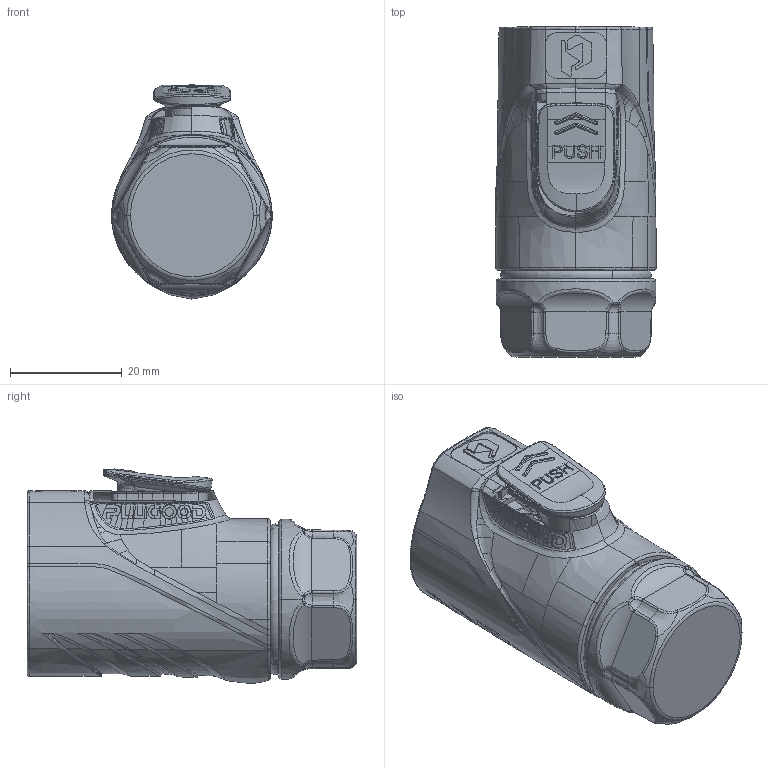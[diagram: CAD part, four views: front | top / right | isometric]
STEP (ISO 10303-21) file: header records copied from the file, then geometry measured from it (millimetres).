
FILE_DESCRIPTION (( 'STEP AP203' ), '1' );
FILE_NAME ('PLG20 4+4Ð¾¹«²åÍ·.STEP', '2025-11-12T10:54:19', ( '' ), ( '' ), 'SwSTEP 2.0', 'SolidWorks 2024', '' );
FILE_SCHEMA (( 'CONFIG_CONTROL_DESIGN' ));
Products named in the file (1): PLG20 4+4芯公插头
Bounding box: 28.77 x 59.1 x 38.4 mm (x, y, z)
Topology: 2 solids, 6 shells, 1452 faces, 3805 edges, 2397 vertices
Faces by surface type: bspline 696, plane 362, cylinder 209, torus 104, cone 74, sphere 7
Entity records: 93873 total; most frequent: CARTESIAN_POINT 63936, ORIENTED_EDGE 7572, DIRECTION 4103, EDGE_CURVE 3786, VERTEX_POINT 2394, B_SPLINE_CURVE_WITH_KNOTS 1886, EDGE_LOOP 1506, AXIS2_PLACEMENT_3D 1505
